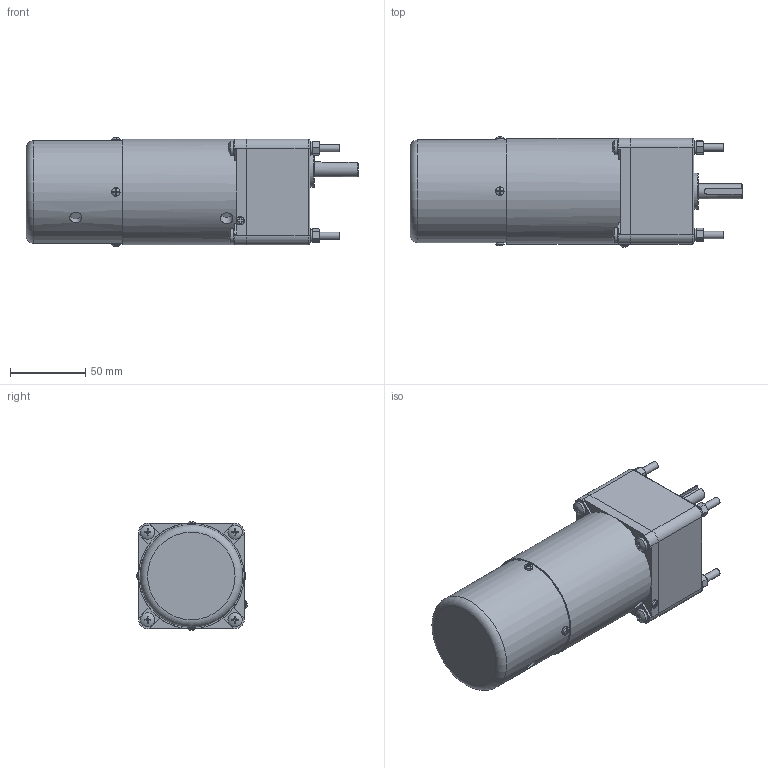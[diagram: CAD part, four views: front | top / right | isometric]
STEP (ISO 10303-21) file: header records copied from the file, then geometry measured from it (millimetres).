
FILE_DESCRIPTION(/* description */ (''),/* implementation_level */ '2;1');
FILE_NAME(/* name */ '70高箱T-25刹车调速.stp',/* time_stamp */ '2022-10-31T09:46:39+08:00',/* author */ (''),/* organization */ (''),/* preprocessor_version */ 'ST-DEVELOPER v16.7',/* originating_system */ 'SIEMENS PLM Software NX 1899',/* authorisation */ '');
FILE_SCHEMA (('AP203_CONFIGURATION_CONTROLLED_3D_DESIGN_OF_MECHANICAL_PARTS_AND_ASSEMBLIES_MIM_LF { 1 0 10303 403 2 1 2}'));
Length unit declared in the file: millimetre
Products named in the file (1): yf186188FEB6lcdq
Bounding box: 220 x 73.18 x 72.28 mm (x, y, z)
Volume: 761089 mm3; surface area: 76137.3 mm2
Topology: 22 solids, 23 shells, 447 faces, 1076 edges, 696 vertices
Faces by surface type: plane 207, bspline 80, cylinder 77, cone 63, torus 11, sphere 9
Full cylindrical faces by diameter (mm): 2.7 x1, 4.351 x4, 4.826 x4, 5 x4, 5.3 x8, 5.6 x5, 6 x9, 8 x1, 8.3 x1, 9 x8, 9.5 x4, 10 x1, 24 x1, 63 x1, 66.6 x2, 68 x1, 70 x1
Entity records: 14347 total; most frequent: CARTESIAN_POINT 3858, ORIENTED_EDGE 1904, DIRECTION 1703, EDGE_CURVE 952, AXIS2_PLACEMENT_3D 708, VERTEX_POINT 658, EDGE_LOOP 593, ADVANCED_FACE 447
